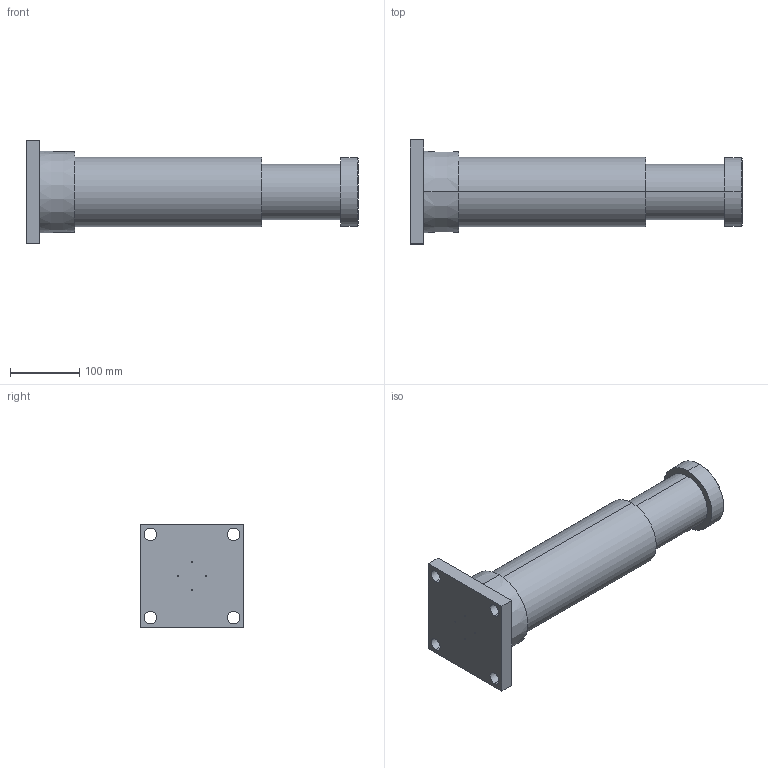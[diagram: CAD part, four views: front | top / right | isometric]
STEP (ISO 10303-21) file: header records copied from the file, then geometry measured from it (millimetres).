
FILE_DESCRIPTION (( 'STEP AP214' ), '1' );
FILE_NAME ('LDH100X100FR.STEP', '2019-01-21T04:57:32', ( 'user' ), ( 'Microsoft' ), 'SwSTEP 2.0', 'SolidWorks 2016', '' );
FILE_SCHEMA (( 'AUTOMOTIVE_DESIGN' ));
Length unit declared in the file: millimetre
Products named in the file (1): LDH100X100FR
Bounding box: 479 x 150 x 150 mm (x, y, z)
Volume: 3850540.8 mm3; surface area: 204451 mm2
Topology: 1 solids, 1 shells, 40 faces, 88 edges, 58 vertices
Faces by surface type: cylinder 22, plane 14, cone 4
Entity records: 1176 total; most frequent: DIRECTION 220, CARTESIAN_POINT 187, ORIENTED_EDGE 176, AXIS2_PLACEMENT_3D 91, EDGE_CURVE 88, VERTEX_POINT 58, EDGE_LOOP 56, CIRCLE 50
